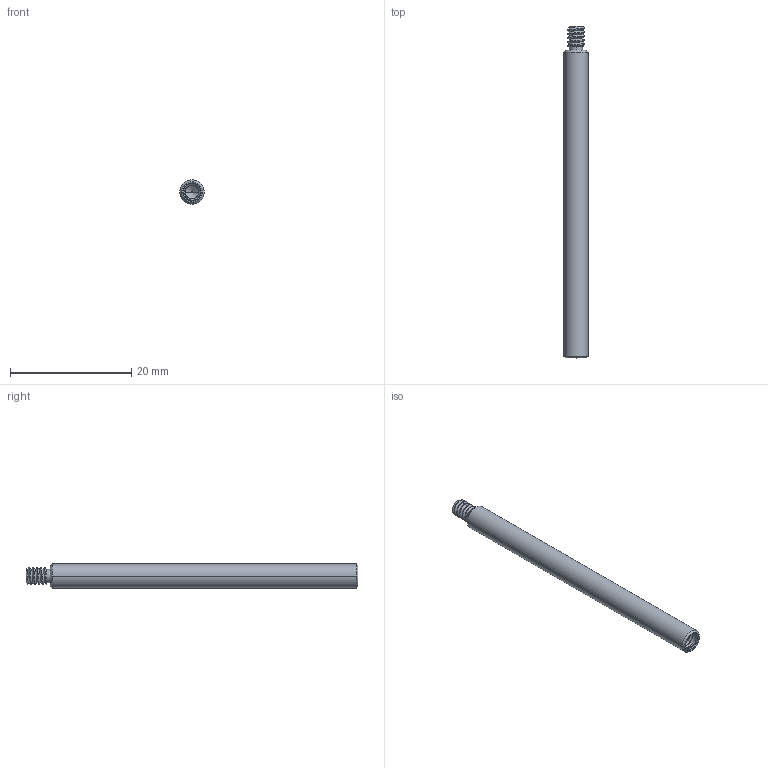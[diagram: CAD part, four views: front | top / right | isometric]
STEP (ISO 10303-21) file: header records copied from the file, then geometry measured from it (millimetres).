
FILE_DESCRIPTION((''),'2;1');
FILE_NAME('SR20','2022-11-15T',('daizh'),(''),'CREO PARAMETRIC BY PTC INC, 2018360','CREO PARAMETRIC BY PTC INC, 2018360','');
FILE_SCHEMA(('CONFIG_CONTROL_DESIGN'));
Length unit declared in the file: millimetre
Products named in the file (1): SR20
Bounding box: 4 x 54.8 x 4 mm (x, y, z)
Volume: 616.6 mm3; surface area: 781.8 mm2
Topology: 1 solids, 1 shells, 66 faces, 170 edges, 109 vertices
Faces by surface type: cylinder 35, bspline 14, cone 10, plane 7
Entity records: 4614 total; most frequent: CARTESIAN_POINT 3161, ORIENTED_EDGE 340, DIRECTION 212, EDGE_CURVE 170, VERTEX_POINT 109, B_SPLINE_CURVE_WITH_KNOTS 86, AXIS2_PLACEMENT_3D 76, EDGE_LOOP 69
